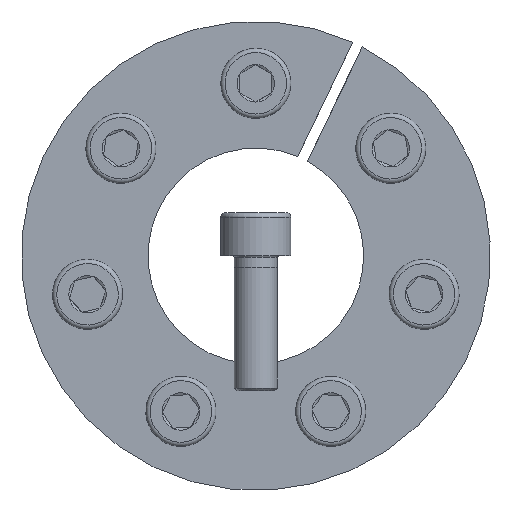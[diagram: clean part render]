
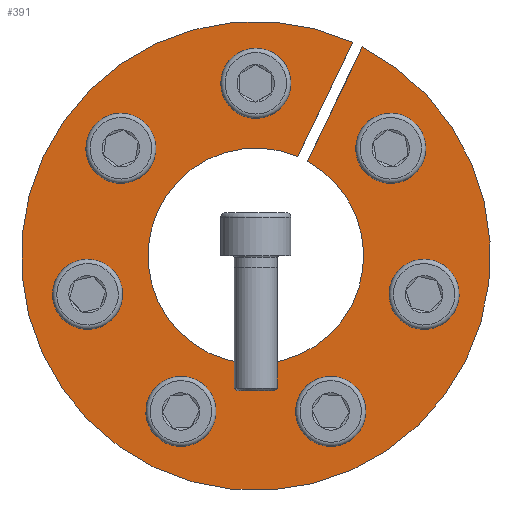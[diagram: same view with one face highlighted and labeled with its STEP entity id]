
A CAD part, front view. The second image highlights one B-rep face of the part: STEP entity #391.
In plain terms, the highlighted planar face has unit normal (0, -1, 0).
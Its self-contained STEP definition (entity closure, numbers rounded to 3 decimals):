
#391 = ADVANCED_FACE( '', ( #642, #643, #644, #645, #646, #647, #648, #649 ), #650, .F. );
#642 = FACE_OUTER_BOUND( '', #796, .T. );
#643 = FACE_BOUND( '', #797, .T. );
#644 = FACE_BOUND( '', #798, .T. );
#645 = FACE_BOUND( '', #799, .T. );
#646 = FACE_BOUND( '', #800, .T. );
#647 = FACE_BOUND( '', #801, .T. );
#648 = FACE_BOUND( '', #802, .T. );
#649 = FACE_BOUND( '', #803, .T. );
#650 = PLANE( '', #804 );
#796 = EDGE_LOOP( '', ( #1054, #1055, #1056, #1057 ) );
#797 = EDGE_LOOP( '', ( #1058 ) );
#798 = EDGE_LOOP( '', ( #1059 ) );
#799 = EDGE_LOOP( '', ( #1060 ) );
#800 = EDGE_LOOP( '', ( #1061 ) );
#801 = EDGE_LOOP( '', ( #1062 ) );
#802 = EDGE_LOOP( '', ( #1063 ) );
#803 = EDGE_LOOP( '', ( #1064 ) );
#804 = AXIS2_PLACEMENT_3D( '', #1065, #1066, #1067 );
#1054 = ORIENTED_EDGE( '', *, *, #1245, .T. );
#1055 = ORIENTED_EDGE( '', *, *, #1232, .T. );
#1056 = ORIENTED_EDGE( '', *, *, #1261, .T. );
#1057 = ORIENTED_EDGE( '', *, *, #1286, .F. );
#1058 = ORIENTED_EDGE( '', *, *, #1274, .F. );
#1059 = ORIENTED_EDGE( '', *, *, #1276, .F. );
#1060 = ORIENTED_EDGE( '', *, *, #1284, .F. );
#1061 = ORIENTED_EDGE( '', *, *, #1270, .F. );
#1062 = ORIENTED_EDGE( '', *, *, #1272, .F. );
#1063 = ORIENTED_EDGE( '', *, *, #1279, .F. );
#1064 = ORIENTED_EDGE( '', *, *, #1285, .F. );
#1065 = CARTESIAN_POINT( '', ( 0., 0., 43.5 ) );
#1066 = DIRECTION( '', ( 0., 1., 0. ) );
#1067 = DIRECTION( '', ( 1., 0., 0. ) );
#1232 = EDGE_CURVE( '', #1351, #1355, #1357, .T. );
#1245 = EDGE_CURVE( '', #1382, #1351, #1383, .T. );
#1261 = EDGE_CURVE( '', #1355, #1408, #1410, .T. );
#1270 = EDGE_CURVE( '', #1425, #1425, #1426, .T. );
#1272 = EDGE_CURVE( '', #1429, #1429, #1430, .T. );
#1274 = EDGE_CURVE( '', #1433, #1433, #1434, .T. );
#1276 = EDGE_CURVE( '', #1437, #1437, #1438, .T. );
#1279 = EDGE_CURVE( '', #1442, #1442, #1443, .T. );
#1284 = EDGE_CURVE( '', #1451, #1451, #1452, .T. );
#1285 = EDGE_CURVE( '', #1453, #1453, #1454, .T. );
#1286 = EDGE_CURVE( '', #1382, #1408, #1455, .T. );
#1351 = VERTEX_POINT( '', #1457 );
#1355 = VERTEX_POINT( '', #1462 );
#1357 = CIRCLE( '', #1465, 43.5 );
#1382 = VERTEX_POINT( '', #1492 );
#1383 = LINE( '', #1493, #1494 );
#1408 = VERTEX_POINT( '', #1536 );
#1410 = LINE( '', #1539, #1540 );
#1425 = VERTEX_POINT( '', #1555 );
#1426 = CIRCLE( '', #1556, 4.5 );
#1429 = VERTEX_POINT( '', #1559 );
#1430 = CIRCLE( '', #1560, 4.5 );
#1433 = VERTEX_POINT( '', #1563 );
#1434 = CIRCLE( '', #1564, 4.5 );
#1437 = VERTEX_POINT( '', #1567 );
#1438 = CIRCLE( '', #1568, 4.5 );
#1442 = VERTEX_POINT( '', #1572 );
#1443 = CIRCLE( '', #1573, 4.5 );
#1451 = VERTEX_POINT( '', #1581 );
#1452 = CIRCLE( '', #1582, 4.5 );
#1453 = VERTEX_POINT( '', #1583 );
#1454 = CIRCLE( '', #1584, 4.5 );
#1455 = CIRCLE( '', #1585, 20. );
#1457 = CARTESIAN_POINT( '', ( 17.968, 0., 39.616 ) );
#1462 = CARTESIAN_POINT( '', ( 19.77, 0., 38.748 ) );
#1465 = AXIS2_PLACEMENT_3D( '', #1591, #1592, #1593 );
#1492 = CARTESIAN_POINT( '', ( 7.766, 0., 18.431 ) );
#1493 = CARTESIAN_POINT( '', ( 7.766, 0., 18.431 ) );
#1494 = VECTOR( '', #1626, 1000. );
#1536 = CARTESIAN_POINT( '', ( 9.568, 0., 17.563 ) );
#1539 = CARTESIAN_POINT( '', ( 19.775, 0., 38.758 ) );
#1540 = VECTOR( '', #1642, 1000. );
#1555 = CARTESIAN_POINT( '', ( 9.83, 0., -30.783 ) );
#1556 = AXIS2_PLACEMENT_3D( '', #1667, #1668, #1669 );
#1559 = CARTESIAN_POINT( '', ( -17.939, 0., -26.879 ) );
#1560 = AXIS2_PLACEMENT_3D( '', #1673, #1674, #1675 );
#1563 = CARTESIAN_POINT( '', ( 4.5, 0., 32. ) );
#1564 = AXIS2_PLACEMENT_3D( '', #1679, #1680, #1681 );
#1567 = CARTESIAN_POINT( '', ( 27.824, 0., 16.433 ) );
#1568 = AXIS2_PLACEMENT_3D( '', #1685, #1686, #1687 );
#1572 = CARTESIAN_POINT( '', ( -32.199, 0., -2.733 ) );
#1573 = AXIS2_PLACEMENT_3D( '', #1694, #1695, #1696 );
#1581 = CARTESIAN_POINT( '', ( 30.196, 0., -11.508 ) );
#1582 = AXIS2_PLACEMENT_3D( '', #1709, #1710, #1711 );
#1583 = CARTESIAN_POINT( '', ( -22.213, 0., 23.47 ) );
#1584 = AXIS2_PLACEMENT_3D( '', #1712, #1713, #1714 );
#1585 = AXIS2_PLACEMENT_3D( '', #1715, #1716, #1717 );
#1591 = CARTESIAN_POINT( '', ( 0., 0., 0. ) );
#1592 = DIRECTION( '', ( 0., -1., 0. ) );
#1593 = DIRECTION( '', ( 0., 0., -1. ) );
#1626 = DIRECTION( '', ( 0.434, 0., 0.901 ) );
#1642 = DIRECTION( '', ( -0.434, 0., -0.901 ) );
#1667 = CARTESIAN_POINT( '', ( 13.884, 0., -28.831 ) );
#1668 = DIRECTION( '', ( 0., -1., 0. ) );
#1669 = DIRECTION( '', ( -0.901, 0., -0.434 ) );
#1673 = CARTESIAN_POINT( '', ( -13.884, 0., -28.831 ) );
#1674 = DIRECTION( '', ( 0., -1., 0. ) );
#1675 = DIRECTION( '', ( -0.901, 0., 0.434 ) );
#1679 = CARTESIAN_POINT( '', ( 0., 0., 32. ) );
#1680 = DIRECTION( '', ( 0., -1., 0. ) );
#1681 = DIRECTION( '', ( 1., 0., 0. ) );
#1685 = CARTESIAN_POINT( '', ( 25.019, 0., 19.952 ) );
#1686 = DIRECTION( '', ( 0., -1., 0. ) );
#1687 = DIRECTION( '', ( 0.623, 0., -0.782 ) );
#1694 = CARTESIAN_POINT( '', ( -31.198, 0., -7.121 ) );
#1695 = DIRECTION( '', ( 0., -1., 0. ) );
#1696 = DIRECTION( '', ( -0.223, 0., 0.975 ) );
#1709 = CARTESIAN_POINT( '', ( 31.198, 0., -7.121 ) );
#1710 = DIRECTION( '', ( 0., -1., 0. ) );
#1711 = DIRECTION( '', ( -0.223, 0., -0.975 ) );
#1712 = CARTESIAN_POINT( '', ( -25.019, 0., 19.952 ) );
#1713 = DIRECTION( '', ( 0., -1., 0. ) );
#1714 = DIRECTION( '', ( 0.623, 0., 0.782 ) );
#1715 = CARTESIAN_POINT( '', ( 0., 0., 0. ) );
#1716 = DIRECTION( '', ( 0., -1., 0. ) );
#1717 = DIRECTION( '', ( 0., 0., -1. ) );
